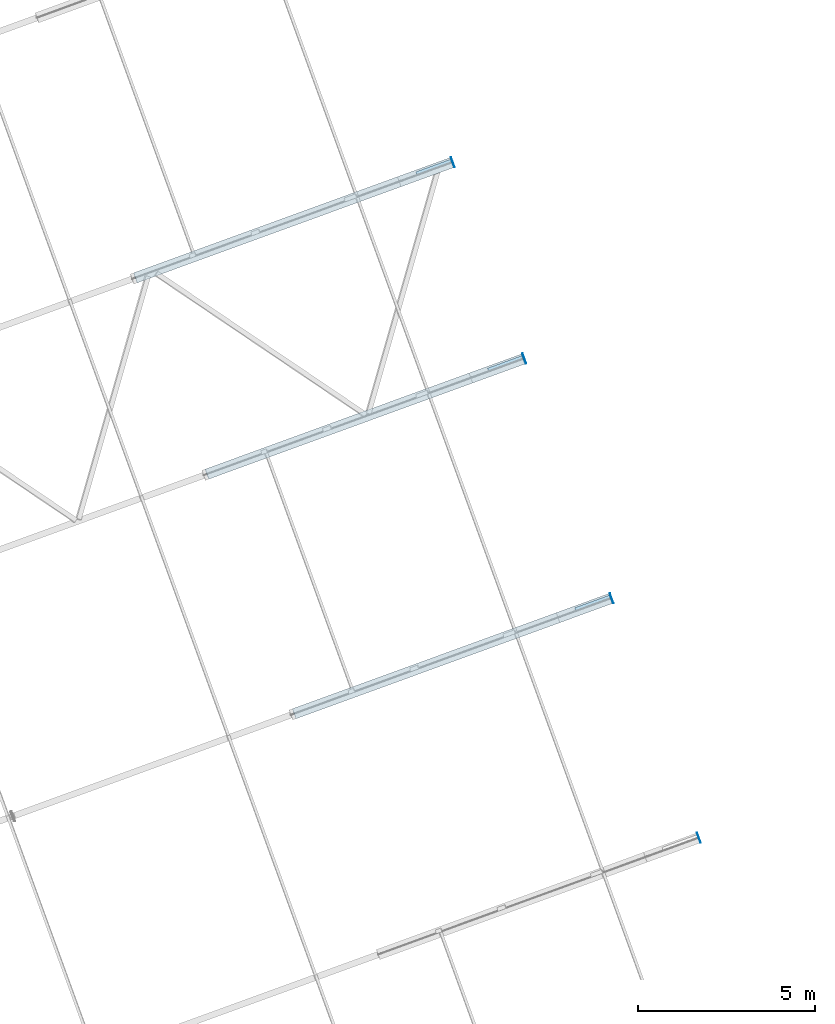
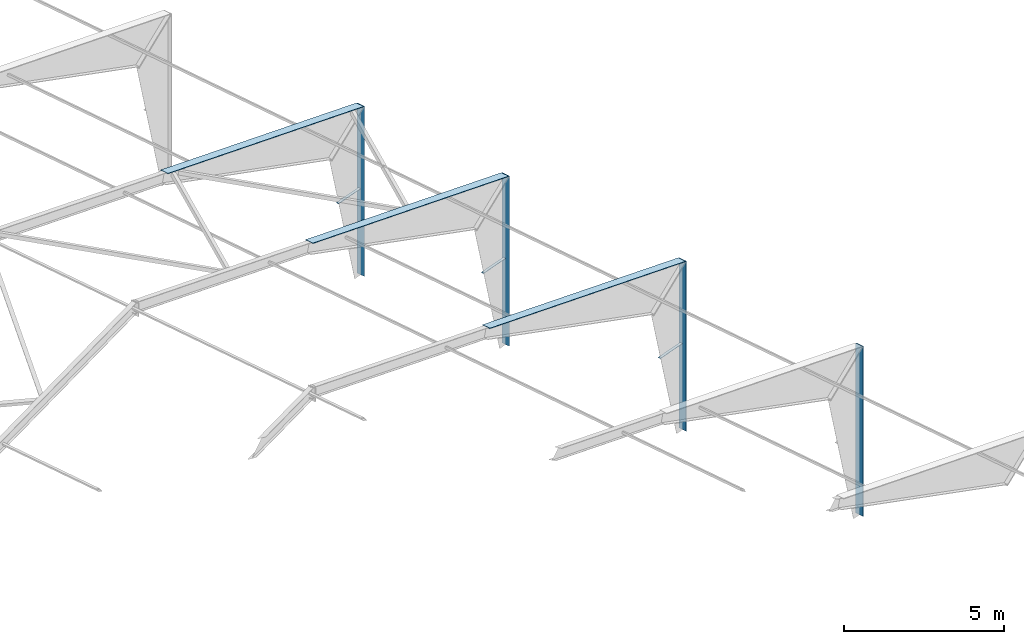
# One storey, part 14 of 17: 10 plates, 10 elements without a shape of their own.
"""IFC4 building model written with IfcOpenShell, lengths in millimetres."""

from ifc_helpers import new_model, si_unit, direction, frame, origin_with_axes, place, context, subcontext, project, spatial, polygons, material, element, aggregate, save


model = new_model("IFC4")

# Units and contexts
model_context = context("Model", 3, precision=0.2, world=frame((203566.813, 116264.779, 0.0), z_axis=(0.0, 0.0, 1.0), x_axis=(1.0, 0.0, 0.0)), true_north=direction((-0.9396138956, -0.3422363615)))
body_context = subcontext(model_context, "Body", "Model", "MODEL_VIEW")
ifc_project = project(units=[si_unit("LENGTHUNIT", "METRE", prefix="MILLI"), si_unit("AREAUNIT", "SQUARE_METRE"), si_unit("VOLUMEUNIT", "CUBIC_METRE"), si_unit("MASSUNIT", "GRAM", prefix="KILO"), si_unit("TIMEUNIT", "SECOND"), si_unit("PLANEANGLEUNIT", "RADIAN"), si_unit("SOLIDANGLEUNIT", "STERADIAN"), si_unit("THERMODYNAMICTEMPERATUREUNIT", "DEGREE_CELSIUS"), si_unit("LUMINOUSINTENSITYUNIT", "LUMEN")], contexts=[model_context])

# Site, building, storey
site_placement = place(None, origin_with_axes())
site = spatial("IfcSite", under=ifc_project, at=site_placement, Name="Nobelprojektet", CompositionType="ELEMENT")
building_placement = place(site_placement, origin_with_axes())
building = spatial("IfcBuilding", under=site, at=building_placement, Name="Hall B", CompositionType="ELEMENT")
storey_placement = place(building_placement, frame((0.0, 0.0, 136000.0), z_axis=(0.0, 0.0, 1.0), x_axis=(1.0, 0.0, 0.0)))
storey = spatial("IfcBuildingStorey", under=building, at=storey_placement, Name="Plan_2", CompositionType="ELEMENT", Elevation=136000.0)

# Assembly, plate
assembly_1_placement = place(storey_placement, frame((174431.5592, 152283.86377, -2800.01358), z_axis=(0.9396136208, 0.3422371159, 0.0), x_axis=(0.0, 0.0, 1.0)))
assembly_1 = element("IfcElementAssembly", 1, at=assembly_1_placement, inside=storey, Name="BEF. STOMME", PredefinedType="NOTDEFINED")
ifc_material = material(Name="S355J2", Category="STEEL")
plate_1_placement = place(assembly_1_placement, frame((6473.48022, 0.0, 0.0), z_axis=(-1.0, 0.0, 0.0), x_axis=(0.0, 0.0, 1.0)))
plate_1 = element("IfcPlate", 2, at=plate_1_placement, material=ifc_material, Name="BEF. STOMME", PredefinedType="NOTDEFINED", context=body_context, shape_type="Tessellation", body=[
    polygons([(-7.5, -150.0, 6473.48022), (-7.5, 150.0, 6473.48022), (-7.5, 150.0, 0.0), (-7.5, -150.0, 0.0), (7.5, 150.0, 6473.48022), (7.5, 150.0, 0.0), (7.5, -150.0, 6473.48022), (7.5, -150.0, 0.0)], [[[1, 2, 3, 4]], [[2, 5, 6, 3]], [[5, 7, 8, 6]], [[7, 1, 4, 8]], [[6, 8, 4, 3]], [[7, 5, 2, 1]]], closed=True),
])
aggregate(assembly_1, [plate_1])

assembly_2_placement = place(storey_placement, frame((171967.45196, 159049.08184, -2800.01358), z_axis=(0.9396136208, 0.3422371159, 0.0), x_axis=(0.0, 0.0, 1.0)))
assembly_2 = element("IfcElementAssembly", 3, at=assembly_2_placement, inside=storey, Name="BEF. STOMME", PredefinedType="NOTDEFINED")
plate_2_placement = place(assembly_2_placement, frame((6473.48022, 0.0, 0.0), z_axis=(-1.0, 0.0, 0.0), x_axis=(0.0, 0.0, 1.0)))
plate_2 = element("IfcPlate", 4, at=plate_2_placement, material=ifc_material, Name="BEF. STOMME", PredefinedType="NOTDEFINED", context=body_context, shape_type="Tessellation", body=[
    polygons([(-7.5, -150.0, 6473.48022), (-7.5, 150.0, 6473.48022), (-7.5, 150.0, 0.0), (-7.5, -150.0, 0.0), (7.5, 150.0, 6473.48022), (7.5, 150.0, 0.0), (7.5, -150.0, 6473.48022), (7.5, -150.0, 0.0)], [[[1, 2, 3, 4]], [[2, 5, 6, 3]], [[5, 7, 8, 6]], [[7, 1, 4, 8]], [[6, 8, 4, 3]], [[7, 5, 2, 1]]], closed=True),
])
aggregate(assembly_2, [plate_2])

assembly_3_placement = place(storey_placement, frame((171929.55117, 159035.27717, 3682.47528), z_axis=(0.2431885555, 0.0885769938, 0.9659262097), x_axis=(-0.9075966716, -0.3305755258, 0.2588206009)))
assembly_3 = element("IfcElementAssembly", 5, at=assembly_3_placement, inside=storey, Name="BEF. STOMME", PredefinedType="NOTDEFINED")
plate_3_placement = place(assembly_3_placement, frame((9833.15093, 0.0, 0.0), z_axis=(-1.0, 0.0, 0.0), x_axis=(0.0, 0.0, 1.0)))
plate_3 = element("IfcPlate", 6, at=plate_3_placement, material=ifc_material, Name="BEF. STOMME", PredefinedType="NOTDEFINED", context=body_context, shape_type="Tessellation", body=[
    polygons([(-10.0, -150.00001, 9833.15093), (-10.0, 149.99999, 9833.15093), (-10.0, 150.0, 0.0), (-10.0, -150.0, 0.0), (10.0, 149.99999, 9833.15093), (10.0, 150.0, 0.0), (10.0, -150.00001, 9833.15093), (10.0, -150.0, 0.0)], [[[1, 2, 3, 4]], [[2, 5, 6, 3]], [[5, 7, 8, 6]], [[7, 1, 4, 8]], [[6, 8, 4, 3]], [[7, 5, 2, 1]]], closed=True),
])
aggregate(assembly_3, [plate_3])

assembly_4_placement = place(storey_placement, frame((171943.29358, 159093.49596, 472.4858), z_axis=(0.0, 0.0, 1.0), x_axis=(-0.9396136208, -0.3422371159, 0.0)))
assembly_4 = element("IfcElementAssembly", 7, at=assembly_4_placement, inside=storey, Name="BEF. STOMME", PredefinedType="NOTDEFINED")
plate_4_placement = place(assembly_4_placement, frame((1065.0, 0.0, 0.0), z_axis=(-1.0, 0.0, 0.0), x_axis=(0.0, 0.0, 1.0)))
plate_4 = element("IfcPlate", 8, at=plate_4_placement, material=ifc_material, Name="BEF. STOMME", PredefinedType="NOTDEFINED", context=body_context, shape_type="Tessellation", body=[
    polygons([(-7.5, -50.0, 1065.0), (-7.5, 50.0, 1065.0), (-7.5, 50.0, 0.0), (-7.5, -50.0, 0.0), (7.5, 50.0, 1065.0), (7.5, 50.0, 0.0), (7.5, -50.0, 1065.0), (7.5, -50.0, 0.0)], [[[1, 2, 3, 4]], [[2, 5, 6, 3]], [[5, 7, 8, 6]], [[7, 1, 4, 8]], [[6, 8, 4, 3]], [[7, 5, 2, 1]]], closed=True),
])
aggregate(assembly_4, [plate_4])

assembly_5_placement = place(storey_placement, frame((169503.34473, 165814.29991, -2800.01358), z_axis=(0.9396136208, 0.3422371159, 0.0), x_axis=(0.0, 0.0, 1.0)))
assembly_5 = element("IfcElementAssembly", 9, at=assembly_5_placement, inside=storey, Name="BEF. STOMME", PredefinedType="NOTDEFINED")
plate_5_placement = place(assembly_5_placement, frame((6473.48022, 0.0, 0.0), z_axis=(-1.0, 0.0, 0.0), x_axis=(0.0, 0.0, 1.0)))
plate_5 = element("IfcPlate", 10, at=plate_5_placement, material=ifc_material, Name="BEF. STOMME", PredefinedType="NOTDEFINED", context=body_context, shape_type="Tessellation", body=[
    polygons([(-7.5, -150.0, 6473.48022), (-7.5, 150.0, 6473.48022), (-7.5, 150.0, 0.0), (-7.5, -150.0, 0.0), (7.5, 150.0, 6473.48022), (7.5, 150.0, 0.0), (7.5, -150.0, 6473.48022), (7.5, -150.0, 0.0)], [[[1, 2, 3, 4]], [[2, 5, 6, 3]], [[5, 7, 8, 6]], [[7, 1, 4, 8]], [[6, 8, 4, 3]], [[7, 5, 2, 1]]], closed=True),
])
aggregate(assembly_5, [plate_5])

assembly_6_placement = place(storey_placement, frame((169465.44394, 165800.49524, 3682.47528), z_axis=(0.2431885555, 0.0885769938, 0.9659262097), x_axis=(-0.9075966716, -0.3305755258, 0.2588206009)))
assembly_6 = element("IfcElementAssembly", 11, at=assembly_6_placement, inside=storey, Name="BEF. STOMME", PredefinedType="NOTDEFINED")
plate_6_placement = place(assembly_6_placement, frame((9833.15093, 0.0, 0.0), z_axis=(-1.0, 0.0, 0.0), x_axis=(0.0, 0.0, 1.0)))
plate_6 = element("IfcPlate", 12, at=plate_6_placement, material=ifc_material, Name="BEF. STOMME", PredefinedType="NOTDEFINED", context=body_context, shape_type="Tessellation", body=[
    polygons([(-10.0, -150.00001, 9833.15093), (-10.0, 149.99999, 9833.15093), (-10.0, 150.0, 0.0), (-10.0, -150.0, 0.0), (10.0, 149.99999, 9833.15093), (10.0, 150.0, 0.0), (10.0, -150.00001, 9833.15093), (10.0, -150.0, 0.0)], [[[1, 2, 3, 4]], [[2, 5, 6, 3]], [[5, 7, 8, 6]], [[7, 1, 4, 8]], [[6, 8, 4, 3]], [[7, 5, 2, 1]]], closed=True),
])
aggregate(assembly_6, [plate_6])

assembly_7_placement = place(storey_placement, frame((169479.18634, 165858.71402, 472.4858), z_axis=(0.0, 0.0, 1.0), x_axis=(-0.9396136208, -0.3422371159, 0.0)))
assembly_7 = element("IfcElementAssembly", 13, at=assembly_7_placement, inside=storey, Name="BEF. STOMME", PredefinedType="NOTDEFINED")
plate_7_placement = place(assembly_7_placement, frame((1065.0, 0.0, 0.0), z_axis=(-1.0, 0.0, 0.0), x_axis=(0.0, 0.0, 1.0)))
plate_7 = element("IfcPlate", 14, at=plate_7_placement, material=ifc_material, Name="BEF. STOMME", PredefinedType="NOTDEFINED", context=body_context, shape_type="Tessellation", body=[
    polygons([(-7.5, -50.0, 1065.0), (-7.5, 50.0, 1065.0), (-7.5, 50.0, 0.0), (-7.5, -50.0, 0.0), (7.5, 50.0, 1065.0), (7.5, 50.0, 0.0), (7.5, -50.0, 1065.0), (7.5, -50.0, 0.0)], [[[1, 2, 3, 4]], [[2, 5, 6, 3]], [[5, 7, 8, 6]], [[7, 1, 4, 8]], [[6, 8, 4, 3]], [[7, 5, 2, 1]]], closed=True),
])
aggregate(assembly_7, [plate_7])

assembly_8_placement = place(storey_placement, frame((167484.14574, 171358.02028, -2800.01358), z_axis=(0.9396136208, 0.3422371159, 0.0), x_axis=(0.0, 0.0, 1.0)))
assembly_8 = element("IfcElementAssembly", 15, at=assembly_8_placement, inside=storey, Name="BEF. STOMME", PredefinedType="NOTDEFINED")
plate_8_placement = place(assembly_8_placement, frame((6473.48022, 0.0, 0.0), z_axis=(-1.0, 0.0, 0.0), x_axis=(0.0, 0.0, 1.0)))
plate_8 = element("IfcPlate", 16, at=plate_8_placement, material=ifc_material, Name="BEF. STOMME", PredefinedType="NOTDEFINED", context=body_context, shape_type="Tessellation", body=[
    polygons([(-7.5, -150.0, 6473.48022), (-7.5, 150.0, 6473.48022), (-7.5, 150.0, 0.0), (-7.5, -150.0, 0.0), (7.5, 150.0, 6473.48022), (7.5, 150.0, 0.0), (7.5, -150.0, 6473.48022), (7.5, -150.0, 0.0)], [[[1, 2, 3, 4]], [[2, 5, 6, 3]], [[5, 7, 8, 6]], [[7, 1, 4, 8]], [[6, 8, 4, 3]], [[7, 5, 2, 1]]], closed=True),
])
aggregate(assembly_8, [plate_8])

assembly_9_placement = place(storey_placement, frame((167446.24496, 171344.21561, 3682.47528), z_axis=(0.2431885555, 0.0885769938, 0.9659262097), x_axis=(-0.9075966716, -0.3305755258, 0.2588206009)))
assembly_9 = element("IfcElementAssembly", 17, at=assembly_9_placement, inside=storey, Name="BEF. STOMME", PredefinedType="NOTDEFINED")
plate_9_placement = place(assembly_9_placement, frame((9833.15093, 0.0, 0.0), z_axis=(-1.0, 0.0, 0.0), x_axis=(0.0, 0.0, 1.0)))
plate_9 = element("IfcPlate", 18, at=plate_9_placement, material=ifc_material, Name="BEF. STOMME", PredefinedType="NOTDEFINED", context=body_context, shape_type="Tessellation", body=[
    polygons([(-10.0, -150.00001, 9833.15093), (-10.0, 149.99999, 9833.15093), (-10.0, 150.0, 0.0), (-10.0, -150.0, 0.0), (10.0, 149.99999, 9833.15093), (10.0, 150.0, 0.0), (10.0, -150.00001, 9833.15093), (10.0, -150.0, 0.0)], [[[1, 2, 3, 4]], [[2, 5, 6, 3]], [[5, 7, 8, 6]], [[7, 1, 4, 8]], [[6, 8, 4, 3]], [[7, 5, 2, 1]]], closed=True),
])
aggregate(assembly_9, [plate_9])

assembly_10_placement = place(storey_placement, frame((167459.98736, 171402.43439, 472.4858), z_axis=(0.0, 0.0, 1.0), x_axis=(-0.9396136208, -0.3422371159, 0.0)))
assembly_10 = element("IfcElementAssembly", 19, at=assembly_10_placement, inside=storey, Name="BEF. STOMME", PredefinedType="NOTDEFINED")
plate_10_placement = place(assembly_10_placement, frame((1065.0, 0.0, 0.0), z_axis=(-1.0, 0.0, 0.0), x_axis=(0.0, 0.0, 1.0)))
plate_10 = element("IfcPlate", 20, at=plate_10_placement, material=ifc_material, Name="BEF. STOMME", PredefinedType="NOTDEFINED", context=body_context, shape_type="Tessellation", body=[
    polygons([(-7.5, -50.0, 1065.0), (-7.5, 50.0, 1065.0), (-7.5, 50.0, 0.0), (-7.5, -50.0, 0.0), (7.5, 50.0, 1065.0), (7.5, 50.0, 0.0), (7.5, -50.0, 1065.0), (7.5, -50.0, 0.0)], [[[1, 2, 3, 4]], [[2, 5, 6, 3]], [[5, 7, 8, 6]], [[7, 1, 4, 8]], [[6, 8, 4, 3]], [[7, 5, 2, 1]]], closed=True),
])
aggregate(assembly_10, [plate_10])

save(model, "model.ifc")
